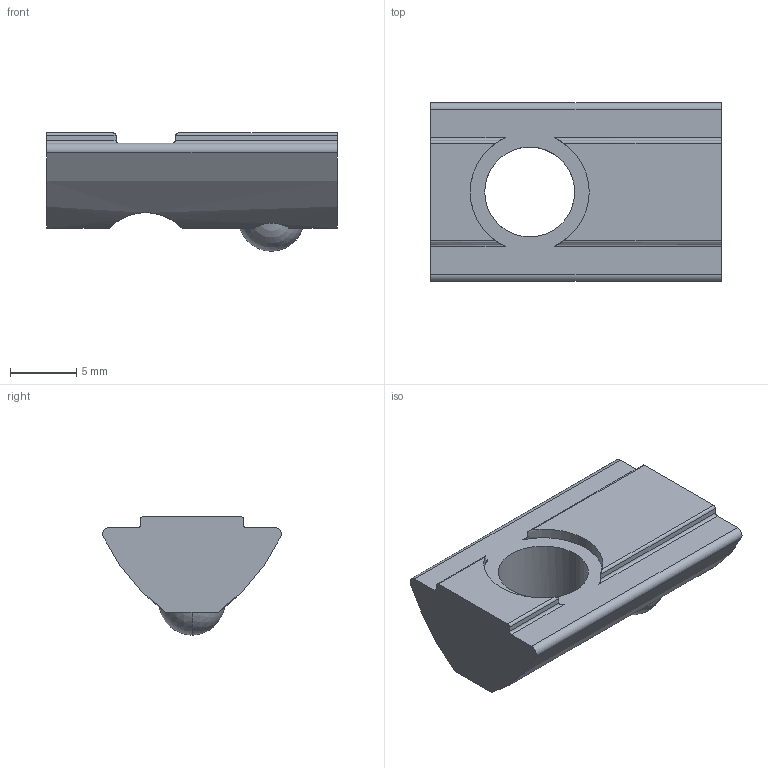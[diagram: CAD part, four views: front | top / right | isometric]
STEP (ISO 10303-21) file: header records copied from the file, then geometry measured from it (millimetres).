
FILE_DESCRIPTION (( 'STEP AP203' ), '1' );
FILE_NAME ('0108NSM8ST.STEP', '2024-03-05T13:28:28', ( 'Windows-Benutzer' ), ( '' ), 'SwSTEP 2.0', 'SolidWorks 2023', '' );
FILE_SCHEMA (( 'CONFIG_CONTROL_DESIGN' ));
Length unit declared in the file: millimetre
Products named in the file (1): 0108NSM8ST
Bounding box: 22 x 13.5 x 8.95 mm (x, y, z)
Volume: 1279 mm3; surface area: 973.7 mm2
Topology: 1 solids, 1 shells, 31 faces, 91 edges, 61 vertices
Faces by surface type: cylinder 17, plane 12, sphere 2
Entity records: 1240 total; most frequent: CARTESIAN_POINT 320, ORIENTED_EDGE 182, DIRECTION 177, EDGE_CURVE 91, AXIS2_PLACEMENT_3D 66, VERTEX_POINT 61, LINE 45, VECTOR 45
